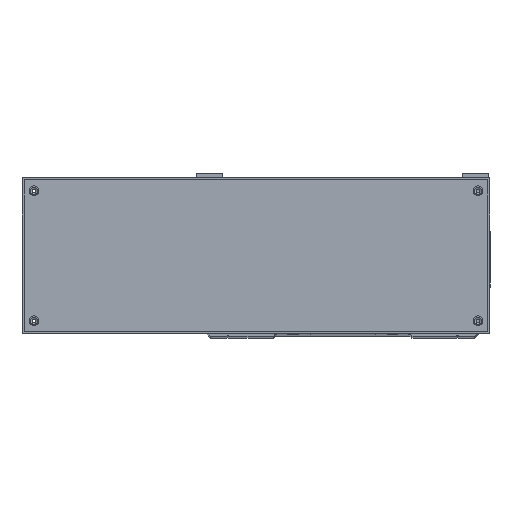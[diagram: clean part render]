
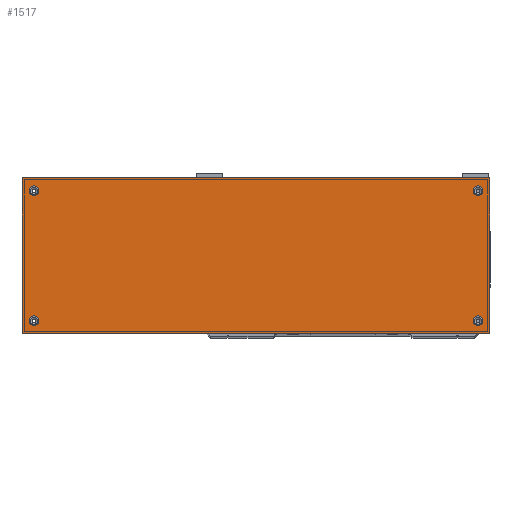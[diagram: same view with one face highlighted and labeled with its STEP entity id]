
A CAD part, top view. The second image highlights one B-rep face of the part: STEP entity #1517.
In plain terms, the highlighted planar face has unit normal (0, 0, 1).
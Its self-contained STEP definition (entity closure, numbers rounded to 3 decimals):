
#1517=ADVANCED_FACE('',(#2681,#2682,#2683,#2684,#2685),#2254,.F.);
#2254=PLANE('',#15864);
#2681=FACE_BOUND('',#3665,.T.);
#2682=FACE_BOUND('',#3666,.T.);
#2683=FACE_BOUND('',#3667,.T.);
#2684=FACE_BOUND('',#3668,.T.);
#2685=FACE_BOUND('',#3669,.T.);
#3665=EDGE_LOOP('',(#6827));
#3666=EDGE_LOOP('',(#6828));
#3667=EDGE_LOOP('',(#6829));
#3668=EDGE_LOOP('',(#6830));
#3669=EDGE_LOOP('',(#6831,#6832,#6833,#6834));
#4997=CIRCLE('',#15849,2.25);
#4999=CIRCLE('',#15852,2.25);
#5001=CIRCLE('',#15855,2.25);
#5003=CIRCLE('',#15858,2.25);
#6827=ORIENTED_EDGE('',*,*,#11982,.F.);
#6828=ORIENTED_EDGE('',*,*,#11984,.F.);
#6829=ORIENTED_EDGE('',*,*,#11986,.F.);
#6830=ORIENTED_EDGE('',*,*,#11988,.F.);
#6831=ORIENTED_EDGE('',*,*,#11725,.F.);
#6832=ORIENTED_EDGE('',*,*,#11998,.F.);
#6833=ORIENTED_EDGE('',*,*,#11989,.F.);
#6834=ORIENTED_EDGE('',*,*,#11752,.F.);
#10086=VERTEX_POINT('',#23205);
#10087=VERTEX_POINT('',#23207);
#10102=VERTEX_POINT('',#23252);
#10260=VERTEX_POINT('',#24163);
#10262=VERTEX_POINT('',#24168);
#10264=VERTEX_POINT('',#24173);
#10266=VERTEX_POINT('',#24178);
#10267=VERTEX_POINT('',#24181);
#11725=EDGE_CURVE('',#10086,#10087,#13474,.T.);
#11752=EDGE_CURVE('',#10087,#10102,#13499,.T.);
#11982=EDGE_CURVE('',#10260,#10260,#4997,.T.);
#11984=EDGE_CURVE('',#10262,#10262,#4999,.T.);
#11986=EDGE_CURVE('',#10264,#10264,#5001,.T.);
#11988=EDGE_CURVE('',#10266,#10266,#5003,.T.);
#11989=EDGE_CURVE('',#10102,#10267,#13625,.T.);
#11998=EDGE_CURVE('',#10267,#10086,#13632,.T.);
#13474=LINE('',#23206,#14560);
#13499=LINE('',#23251,#14585);
#13625=LINE('',#24180,#14711);
#13632=LINE('',#24197,#14718);
#14560=VECTOR('',#18159,1.);
#14585=VECTOR('',#18194,1.);
#14711=VECTOR('',#18664,1.);
#14718=VECTOR('',#18677,1.);
#15849=AXIS2_PLACEMENT_3D('',#24162,#18642,#18643);
#15852=AXIS2_PLACEMENT_3D('',#24167,#18648,#18649);
#15855=AXIS2_PLACEMENT_3D('',#24172,#18654,#18655);
#15858=AXIS2_PLACEMENT_3D('',#24177,#18660,#18661);
#15864=AXIS2_PLACEMENT_3D('',#24204,#18683,#18684);
#18159=DIRECTION('',(0.,-1.,0.));
#18194=DIRECTION('',(-1.,0.,0.));
#18642=DIRECTION('',(0.,0.,1.));
#18643=DIRECTION('',(-1.,0.,0.));
#18648=DIRECTION('',(0.,0.,1.));
#18649=DIRECTION('',(1.,0.,0.));
#18654=DIRECTION('',(0.,0.,1.));
#18655=DIRECTION('',(-1.,0.,0.));
#18660=DIRECTION('',(0.,0.,1.));
#18661=DIRECTION('',(1.,0.,0.));
#18664=DIRECTION('',(0.,1.,0.));
#18677=DIRECTION('',(1.,0.,0.));
#18683=DIRECTION('',(0.,0.,-1.));
#18684=DIRECTION('',(1.,0.,0.));
#23205=CARTESIAN_POINT('',(68.,72.,193.));
#23206=CARTESIAN_POINT('',(68.,72.,193.));
#23207=CARTESIAN_POINT('',(68.,0.,193.));
#23251=CARTESIAN_POINT('',(68.,0.,193.));
#23252=CARTESIAN_POINT('',(-148.,0.,193.));
#24162=CARTESIAN_POINT('',(-142.5,6.,193.));
#24163=CARTESIAN_POINT('',(-144.75,6.,193.));
#24167=CARTESIAN_POINT('',(62.5,6.,193.));
#24168=CARTESIAN_POINT('',(64.75,6.,193.));
#24172=CARTESIAN_POINT('',(62.5,66.,193.));
#24173=CARTESIAN_POINT('',(60.25,66.,193.));
#24177=CARTESIAN_POINT('',(-142.5,66.,193.));
#24178=CARTESIAN_POINT('',(-140.25,66.,193.));
#24180=CARTESIAN_POINT('',(-148.,72.,193.));
#24181=CARTESIAN_POINT('',(-148.,72.,193.));
#24197=CARTESIAN_POINT('',(68.,72.,193.));
#24204=CARTESIAN_POINT('',(-40.,36.,193.));
